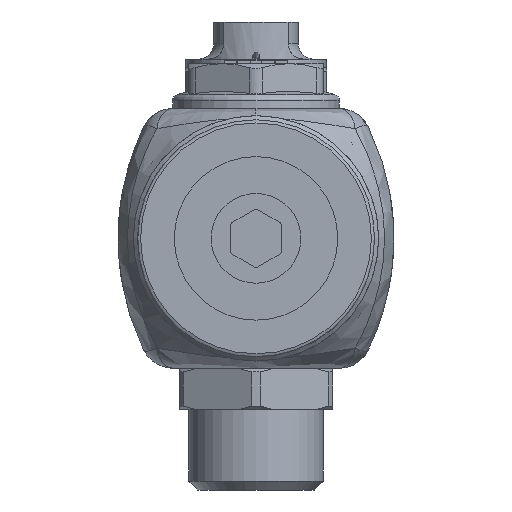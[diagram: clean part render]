
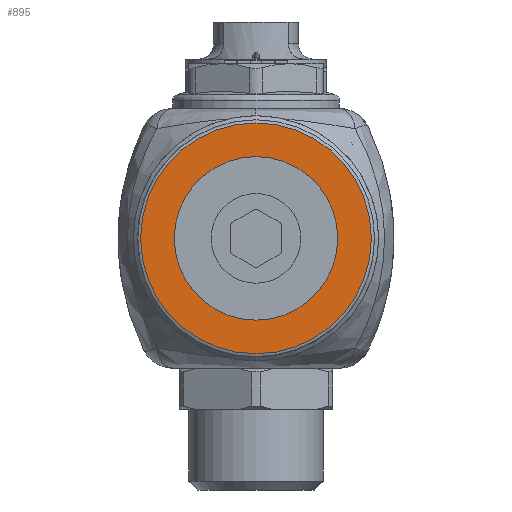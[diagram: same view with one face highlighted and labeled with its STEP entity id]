
A CAD part, front view. The second image highlights one B-rep face of the part: STEP entity #895.
In plain terms, the highlighted planar face has unit normal (0, -1, 0).
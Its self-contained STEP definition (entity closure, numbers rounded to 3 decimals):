
#895=ADVANCED_FACE('',(#15124,#15126),#15128,.F.);
#15124=FACE_BOUND('',#15125,.T.);
#15125=EDGE_LOOP('',(#24883));
#15126=FACE_BOUND('',#15127,.T.);
#15127=EDGE_LOOP('',(#24884));
#15128=PLANE('',#15129);
#15129=AXIS2_PLACEMENT_3D('',#15130,#15131,#15132);
#15130=CARTESIAN_POINT('',(0.,-295.75,0.));
#15131=DIRECTION('',(0.,1.,0.));
#15132=DIRECTION('',(-1.,0.,0.));
#24883=ORIENTED_EDGE('',*,*,#27568,.T.);
#24884=ORIENTED_EDGE('',*,*,#27602,.T.);
#27568=EDGE_CURVE('',#31517,#31517,#31518,.T.);
#27602=EDGE_CURVE('',#31574,#31574,#31575,.F.);
#31517=VERTEX_POINT('',#55819);
#31518=CIRCLE('',#55820,18.);
#31574=VERTEX_POINT('',#55957);
#31575=CIRCLE('',#55958,12.75);
#55819=CARTESIAN_POINT('',(18.,-295.75,0.));
#55820=AXIS2_PLACEMENT_3D('',#55821,#55822,#55823);
#55821=CARTESIAN_POINT('',(0.,-295.75,0.));
#55822=DIRECTION('',(0.,-1.,0.));
#55823=DIRECTION('',(1.,0.,0.));
#55957=CARTESIAN_POINT('',(12.75,-295.75,0.));
#55958=AXIS2_PLACEMENT_3D('',#55959,#55960,#55961);
#55959=CARTESIAN_POINT('',(0.,-295.75,0.));
#55960=DIRECTION('',(0.,-1.,0.));
#55961=DIRECTION('',(1.,0.,0.));
